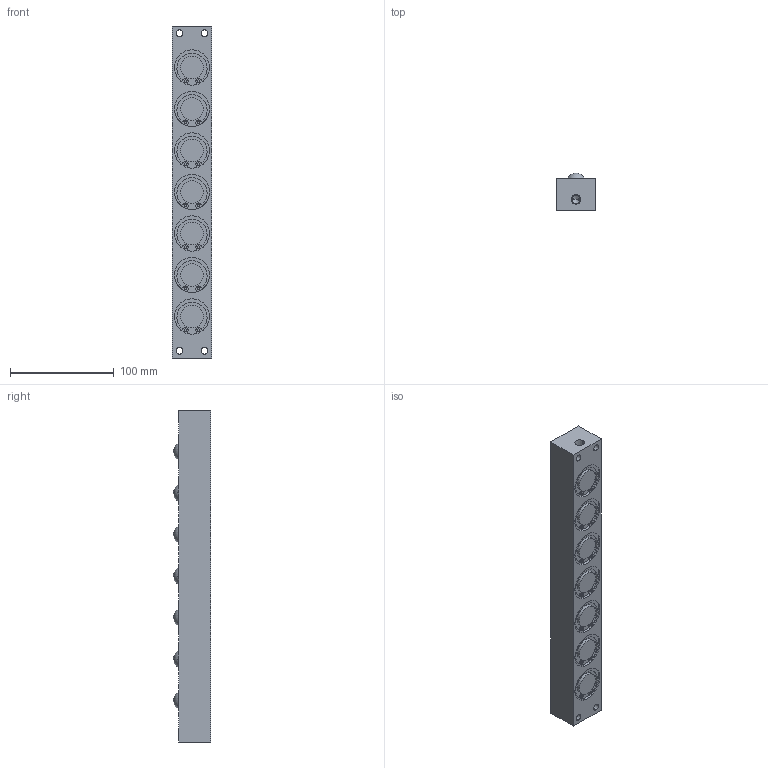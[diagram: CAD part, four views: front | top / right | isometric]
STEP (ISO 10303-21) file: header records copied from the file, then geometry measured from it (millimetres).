
FILE_DESCRIPTION (( 'STEP AP203' ), '1' );
FILE_NAME ('PVL30S-7.STEP', '2016-01-05T05:02:27', ( '' ), ( '' ), 'SwSTEP 2.0', 'SolidWorks 2013', '' );
FILE_SCHEMA (( 'CONFIG_CONTROL_DESIGN' ));
Length unit declared in the file: millimetre
Products named in the file (1): PVL30S-7
Bounding box: 38 x 36 x 320 mm (x, y, z)
Volume: 367337 mm3; surface area: 60032.7 mm2
Topology: 1 solids, 1 shells, 250 faces, 587 edges, 392 vertices
Faces by surface type: cylinder 158, plane 74, sphere 14, cone 4
Entity records: 7452 total; most frequent: DIRECTION 1449, CARTESIAN_POINT 1228, ORIENTED_EDGE 1170, AXIS2_PLACEMENT_3D 613, EDGE_CURVE 585, VERTEX_POINT 392, CIRCLE 362, EDGE_LOOP 313
